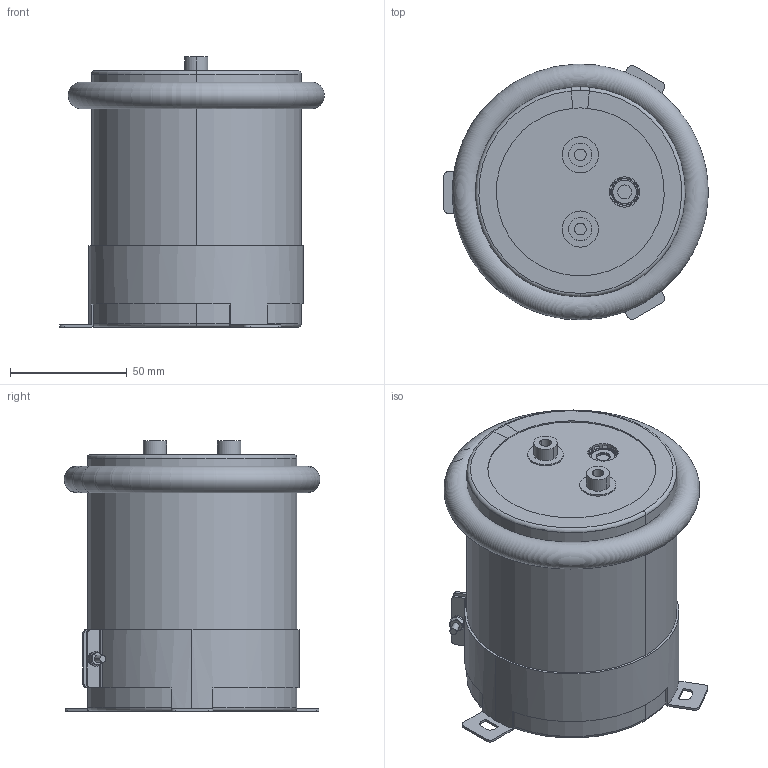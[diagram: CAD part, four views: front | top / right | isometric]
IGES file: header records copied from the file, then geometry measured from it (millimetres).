
Start section: 3D InterOp IGES (v. 2019 1.0.2), Spatial Corp. Copyright (c) 1999-2017.
Global section: file name: 90x110_Screw.igs; native system: Spatial Corp.; preprocessor: 3D InterOp ACIS/IGES; author: Noname; organization: Noname; date: 20220314.170310; units: millimetre
Bounding box: 113.35 x 109.69 x 116 mm (x, y, z)
Volume: 1044477.4 mm3; surface area: 273592.7 mm2
Topology: 9 solids, 9 shells, 352 faces, 953 edges, 591 vertices
Faces by surface type: plane 112, cylinder 110, torus 90, cone 38, sphere 2
